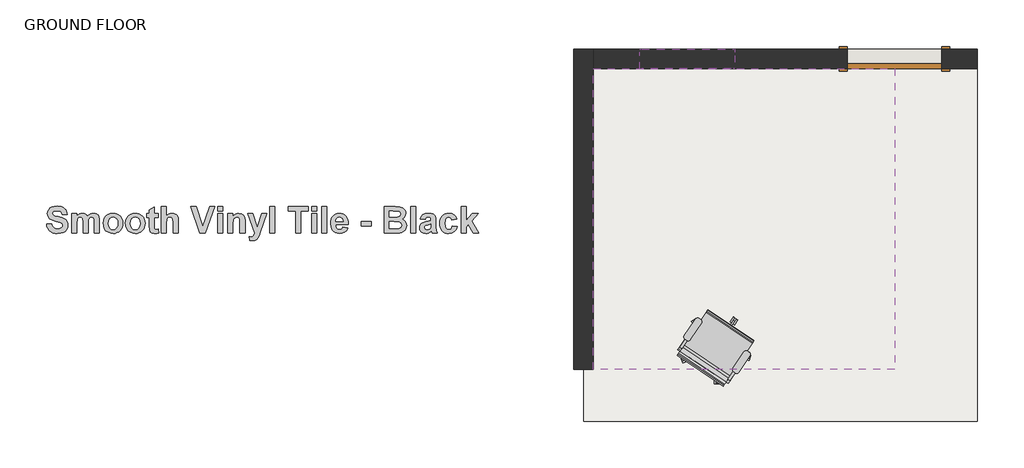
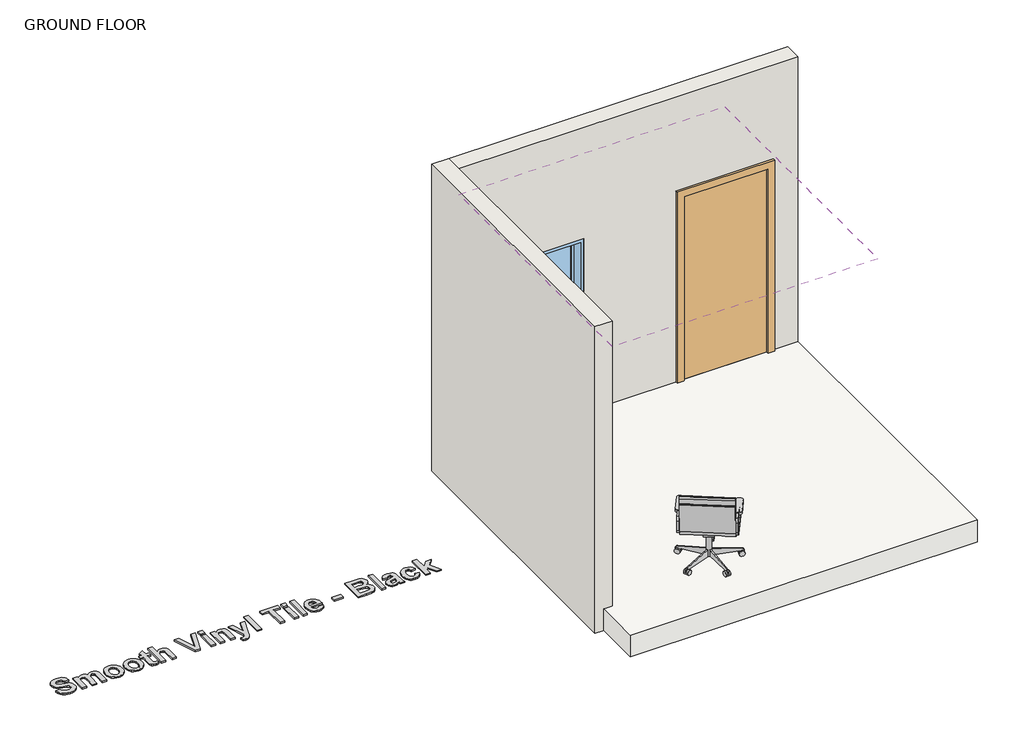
# One storey, incomplete: 2 walls, 1 covering, 1 door, 1 furniture element, 1 proxy, 1 slab, 1 window.
"""IFC4 building model written with IfcOpenShell, lengths in millimetres."""

from ifc_helpers import new_model, si_unit, frame, origin, origin_with_axes, place, context, project, spatial, polyline, outline, extrude, faceted_brep, transform, mapped, element, save
from components import m_single_flush_0915_x_2134mm_f5238887, chair_task_arms_chair_task_arms_8395c10b, m_fixed_0915_x_0610mm_e83bb20a

model = new_model("IFC4")

# Units and contexts
model_context = context("Model", 3, world=origin())
ifc_project = project(units=[si_unit("LENGTHUNIT", "METRE", prefix="MILLI")], contexts=[model_context])

# Site, building, storey
site = spatial("IfcSite", under=ifc_project)
building = spatial("IfcBuilding", under=site)
storey = spatial("IfcBuildingStorey", under=building, Name="GROUND FLOOR", Elevation=0.0)

# Proxy
placement = place(None, origin())
element("IfcBuildingElementProxy", 1, Name="600mm Arial", ObjectType="600mm Arial", at=placement, inside=storey, context=model_context, shape_type="SweptSolid", body=[
    extrude(outline(polyline([(3280.9097687, -20252.2153974), (3329.4935496, -20248.166749), (3336.5786843, -20269.8966042), (3348.4715891, -20284.9841455), (3365.2513389, -20293.8089338), (3386.9970091, -20296.7505299), (3409.565061, -20294.148957), (3425.7754697, -20286.3442383), (3435.54916, -20275.0602124), (3438.8070568, -20262.0207178), (3433.3983155, -20246.8066562), (3414.4519061, -20235.8942835), (3372.3206586, -20225.076801), (3336.3572739, -20213.8955728), (3312.9826553, -20200.2155694), (3295.0009629, -20176.920026), (3289.0070655, -20149.038123), (3291.7588812, -20130.249864), (3300.0143284, -20112.7268076), (3313.4571063, -20097.8448617), (3331.7709143, -20086.9799341), (3354.6552669, -20080.3376203), (3381.8096783, -20078.1235157), (3423.774868, -20083.6429621), (3440.3154155, -20090.5422702), (3453.8945981, -20100.2013015), (3464.5559071, -20112.1614201), (3472.3428339, -20125.9639901), (3477.2553785, -20141.6090113), (3479.2935409, -20159.0964839), (3430.7097599, -20159.0964839), (3425.3405563, -20142.4037167), (3416.0650395, -20131.1671359), (3402.0291978, -20124.7857701), (3382.3790195, -20122.6586482), (3361.6929565, -20124.9201979), (3346.0677041, -20131.704847), (3339.7100608, -20138.5053111), (3337.5908464, -20147.2668393), (3339.5202805, -20155.5381015), (3345.3085825, -20162.512531), (3362.1120549, -20170.6809955), (3392.9118314, -20179.1183155), (3425.7833772, -20187.8956588), (3448.8021575, -20197.0841929), (3464.933491, -20208.2100685), (3477.1426964, -20222.7994363), (3484.8288024, -20241.0341692), (3487.3908377, -20263.09614), (3484.3622589, -20284.1617638), (3475.2765225, -20303.8356647), (3460.6476171, -20320.378189), (3440.9895313, -20332.0496833), (3416.088762, -20338.9766677), (3385.7318065, -20341.2856625), (3363.0293268, -20339.8642864), (3343.1261079, -20335.6001582), (3326.0221499, -20328.4932778), (3311.7174527, -20318.5436452), (3300.1131723, -20305.8698733), (3291.1104649, -20290.5905746), (3284.7093303, -20272.7057494), (3280.9097687, -20252.2153974)])), origin_with_axes(), (0.0, 0.0, 1.0), 15.0),
    extrude(outline(polyline([(3523.8286734, -20150.9991871), (3572.4124544, -20150.9991871), (3572.4124544, -20175.9236789), (3584.372573, -20163.24793), (3597.4160213, -20154.1938237), (3611.5427994, -20148.7613599), (3626.7529073, -20146.9505387), (3642.4018823, -20148.7297299), (3655.8209377, -20154.0673035), (3667.0258885, -20163.0107046), (3676.0325497, -20175.6073782), (3688.471073, -20163.0107046), (3701.8743134, -20154.0673035), (3716.2264557, -20148.7297299), (3731.511685, -20146.9505387), (3749.9678283, -20149.0302155), (3765.3558553, -20155.269246), (3777.4701705, -20165.5411098), (3786.1051784, -20179.7192868), (3789.8058961, -20195.2970941), (3791.0394686, -20218.2447068), (3791.0394686, -20337.2370141), (3742.4556877, -20337.2370141), (3742.4556877, -20230.0110913), (3741.2221151, -20207.0634786), (3737.5213974, -20194.0160765), (3729.13943, -20186.0452999), (3717.1516351, -20183.3883744), (3707.4491125, -20184.9777852), (3698.331746, -20189.7460176), (3690.7405302, -20197.5823664), (3685.6164596, -20208.3761263), (3681.7259615, -20247.1545869), (3681.7259615, -20337.2370141), (3633.1421806, -20337.2370141), (3633.1421806, -20234.4393005), (3630.6117753, -20199.1085171), (3622.7991491, -20187.2788725), (3608.4074692, -20183.3883744), (3598.0169926, -20184.9303401), (3588.7335683, -20189.5562372), (3581.2372427, -20197.1000079), (3576.2080623, -20207.3955943), (3572.4124544, -20246.0791647), (3572.4124544, -20337.2370141), (3523.8286734, -20337.2370141), (3523.8286734, -20150.9991871)])), origin_with_axes(), (0.0, 0.0, 1.0), 15.0),
    extrude(outline(polyline([(3827.4773044, -20241.4611751), (3830.4742531, -20217.3669725), (3839.4650993, -20194.0477065), (3853.9437619, -20173.828187), (3873.4041598, -20159.0332238), (3896.6364431, -20149.97121), (3922.4307617, -20146.9505387), (3942.4229401, -20148.662516), (3960.5212683, -20153.7984479), (3976.7257464, -20162.3583345), (3991.0363742, -20174.3421756), (4002.7296141, -20188.9434047), (4011.0819284, -20205.355455), (4016.0933169, -20223.5783267), (4017.7637797, -20243.6120195), (4016.075525, -20263.8058396), (4011.0107607, -20282.1927922), (4002.5694869, -20298.7728773), (3990.7517036, -20313.5460948), (3976.3758387, -20325.6821557), (3960.2603203, -20334.3507706), (3942.4051482, -20339.5519395), (3922.8103224, -20341.2856625), (3898.0360735, -20338.399419), (3874.447952, -20329.7406885), (3854.2047099, -20315.4992514), (3839.4650993, -20295.8648881), (3830.4742531, -20271.0985466), (3827.4773044, -20241.4611751)]), holes=[polyline([(3876.0610853, -20244.1181006), (3879.4217798, -20270.0942921), (3889.5038632, -20289.1909442), (3904.5202369, -20300.9336061), (3922.6838022, -20304.8478268), (3940.8315524, -20300.9336061), (3955.800481, -20289.1909442), (3965.8351193, -20269.9994019), (3969.1799988, -20243.7385398), (3965.8351193, -20218.0470189), (3955.800481, -20199.0452569), (3940.8315524, -20187.302595), (3922.6838022, -20183.3883744), (3904.5202369, -20187.302595), (3889.5038632, -20199.0452569), (3879.4217798, -20218.1419091), (3876.0610853, -20244.1181006)])]), origin_with_axes(), (0.0, 0.0, 1.0), 15.0),
    extrude(outline(polyline([(4042.0556702, -20241.4611751), (4045.0526189, -20217.3669725), (4054.0434651, -20194.0477065), (4068.5221277, -20173.828187), (4087.9825257, -20159.0332238), (4111.2148089, -20149.97121), (4137.0091275, -20146.9505387), (4157.0013059, -20148.662516), (4175.0996342, -20153.7984479), (4191.3041122, -20162.3583345), (4205.6147401, -20174.3421756), (4217.30798, -20188.9434047), (4225.6602942, -20205.355455), (4230.6716828, -20223.5783267), (4232.3421456, -20243.6120195), (4230.6538909, -20263.8058396), (4225.5891266, -20282.1927922), (4217.1478528, -20298.7728773), (4205.3300695, -20313.5460948), (4190.9542046, -20325.6821557), (4174.8386861, -20334.3507706), (4156.983514, -20339.5519395), (4137.3886883, -20341.2856625), (4112.6144393, -20338.399419), (4089.0263178, -20329.7406885), (4068.7830758, -20315.4992514), (4054.0434651, -20295.8648881), (4045.0526189, -20271.0985466), (4042.0556702, -20241.4611751)]), holes=[polyline([(4090.6394512, -20244.1181006), (4094.0001457, -20270.0942921), (4104.0822291, -20289.1909442), (4119.0986028, -20300.9336061), (4137.262168, -20304.8478268), (4155.4099183, -20300.9336061), (4170.3788469, -20289.1909442), (4180.4134852, -20269.9994019), (4183.7583647, -20243.7385398), (4180.4134852, -20218.0470189), (4170.3788469, -20199.0452569), (4155.4099183, -20187.302595), (4137.262168, -20183.3883744), (4119.0986028, -20187.302595), (4104.0822291, -20199.0452569), (4094.0001457, -20218.1419091), (4090.6394512, -20244.1181006)])]), origin_with_axes(), (0.0, 0.0, 1.0), 15.0),
    extrude(outline(polyline([(4357.8502464, -20150.9991871), (4357.8502464, -20187.4370228), (4321.4124107, -20187.4370228), (4321.4124107, -20267.3345688), (4322.519463, -20295.5802175), (4327.5486434, -20302.2225313), (4337.1009233, -20304.8478268), (4359.8745706, -20300.166577), (4361.8988948, -20334.7066088), (4343.1580809, -20339.6408991), (4322.1082721, -20341.2856625), (4297.5633411, -20336.730933), (4281.5268978, -20324.9645486), (4274.410133, -20305.417168), (4272.8286297, -20270.0547545), (4272.8286297, -20187.4370228), (4248.5367393, -20187.4370228), (4248.5367393, -20150.9991871), (4272.8286297, -20150.9991871), (4272.8286297, -20114.5613514), (4321.4124107, -20086.2208125), (4321.4124107, -20150.9991871), (4357.8502464, -20150.9991871)])), origin_with_axes(), (0.0, 0.0, 1.0), 15.0),
    extrude(outline(polyline([(4434.7745662, -20082.1721641), (4434.7745662, -20174.531956), (4446.9798178, -20162.4650859), (4460.3158443, -20153.845893), (4474.7826456, -20148.6743773), (4490.3802218, -20146.9505387), (4506.1952546, -20148.5241345), (4520.3655241, -20153.2449218), (4532.0686484, -20160.4249467), (4540.4822459, -20169.3762553), (4549.7182251, -20191.1061104), (4552.1853702, -20228.0500272), (4552.1853702, -20337.2370141), (4503.6015893, -20337.2370141), (4503.6015893, -20238.1716482), (4500.8814036, -20200.6900203), (4491.2658636, -20188.0696241), (4474.0591079, -20183.3883744), (4462.7988045, -20184.8908025), (4452.8037037, -20189.3980869), (4444.6984994, -20196.9260425), (4439.1078852, -20207.4904845), (4434.7745662, -20243.2957189), (4434.7745662, -20337.2370141), (4386.1907853, -20337.2370141), (4386.1907853, -20082.1721641), (4434.7745662, -20082.1721641)])), origin_with_axes(), (0.0, 0.0, 1.0), 15.0),
    extrude(outline(polyline([(4759.6153412, -20337.2370141), (4673.6448226, -20082.1721641), (4724.885529, -20082.1721641), (4789.0313023, -20272.4586395), (4853.366856, -20082.1721641), (4904.4177821, -20082.1721641), (4813.892534, -20337.2370141), (4759.6153412, -20337.2370141)])), origin_with_axes(), (0.0, 0.0, 1.0), 15.0),
    extrude(outline(polyline([(4932.758321, -20126.7072966), (4932.758321, -20082.1721641), (4981.3421019, -20082.1721641), (4981.3421019, -20126.7072966), (4932.758321, -20126.7072966)])), origin_with_axes(), (0.0, 0.0, 1.0), 15.0),
    extrude(outline(polyline([(4932.758321, -20337.2370141), (4932.758321, -20150.9991871), (4981.3421019, -20150.9991871), (4981.3421019, -20337.2370141), (4932.758321, -20337.2370141)])), origin_with_axes(), (0.0, 0.0, 1.0), 15.0),
    extrude(outline(polyline([(5195.9204678, -20337.2370141), (5147.3366868, -20337.2370141), (5147.3366868, -20241.5244352), (5144.3002005, -20202.1766334), (5134.3683599, -20188.3226647), (5117.8574656, -20183.3883744), (5106.0989887, -20185.1517506), (5095.6215294, -20190.4418791), (5087.3344522, -20198.6498811), (5082.1471214, -20209.166878), (5078.5096638, -20252.2786575), (5078.5096638, -20337.2370141), (5029.9258829, -20337.2370141), (5029.9258829, -20150.9991871), (5078.5096638, -20150.9991871), (5078.5096638, -20177.8214828), (5090.8018981, -20164.3154448), (5104.588653, -20154.6682747), (5119.8699285, -20148.8799727), (5136.6457246, -20146.9505387), (5164.8597433, -20152.8337309), (5184.2173435, -20167.8263821), (5193.3584325, -20188.480815), (5195.9204678, -20221.5974938), (5195.9204678, -20337.2370141)])), origin_with_axes(), (0.0, 0.0, 1.0), 15.0),
    extrude(outline(polyline([(5224.2610067, -20150.9991871), (5272.8447876, -20150.9991871), (5315.355596, -20282.833301), (5357.8664043, -20150.9991871), (5406.4501852, -20150.9991871), (5343.4430943, -20329.4560179), (5331.73997, -20362.6043268), (5320.194996, -20386.2003558), (5307.5745998, -20399.4217233), (5290.0199133, -20407.2976097), (5266.5187745, -20410.1126855), (5240.4556003, -20407.3292397), (5236.4069519, -20371.3342249), (5255.701292, -20373.6748498), (5269.4682781, -20371.1049069), (5279.1391707, -20363.3950784), (5290.810665, -20337.2370141), (5224.2610067, -20150.9991871)])), origin_with_axes(), (0.0, 0.0, 1.0), 15.0),
    extrude(outline(polyline([(5434.7907241, -20337.2370141), (5434.7907241, -20082.1721641), (5483.3745051, -20082.1721641), (5483.3745051, -20337.2370141), (5434.7907241, -20337.2370141)])), origin_with_axes(), (0.0, 0.0, 1.0), 15.0),
    extrude(outline(polyline([(5685.8069257, -20337.2370141), (5685.8069257, -20126.7072966), (5612.9312543, -20126.7072966), (5612.9312543, -20082.1721641), (5807.2663781, -20082.1721641), (5807.2663781, -20126.7072966), (5734.3907067, -20126.7072966), (5734.3907067, -20337.2370141), (5685.8069257, -20337.2370141)])), origin_with_axes(), (0.0, 0.0, 1.0), 15.0),
    extrude(outline(polyline([(5839.6555654, -20126.7072966), (5839.6555654, -20082.1721641), (5888.2393463, -20082.1721641), (5888.2393463, -20126.7072966), (5839.6555654, -20126.7072966)])), origin_with_axes(), (0.0, 0.0, 1.0), 15.0),
    extrude(outline(polyline([(5839.6555654, -20337.2370141), (5839.6555654, -20150.9991871), (5888.2393463, -20150.9991871), (5888.2393463, -20337.2370141), (5839.6555654, -20337.2370141)])), origin_with_axes(), (0.0, 0.0, 1.0), 15.0),
    extrude(outline(polyline([(5936.8231273, -20337.2370141), (5936.8231273, -20082.1721641), (5985.4069082, -20082.1721641), (5985.4069082, -20337.2370141), (5936.8231273, -20337.2370141)])), origin_with_axes(), (0.0, 0.0, 1.0), 15.0),
    extrude(outline(polyline([(6139.2555479, -20280.5559363), (6187.8393289, -20288.6532331), (6176.0096843, -20311.3240827), (6158.8661887, -20327.8428846), (6136.5828074, -20337.924968), (6109.3335057, -20341.2856625), (6087.3308413, -20339.3048296), (6068.3883857, -20333.362331), (6052.5061389, -20323.4581667), (6039.684101, -20309.5923366), (6026.3045832, -20280.888052), (6021.8447439, -20245.5098235), (6023.3234495, -20223.6692631), (6027.7595662, -20204.3274779), (6035.1530941, -20187.4844679), (6045.5040331, -20173.1402331), (6058.1165218, -20161.6822418), (6072.2946988, -20153.4979623), (6088.038564, -20148.5873946), (6105.3481175, -20146.9505387), (6124.5831512, -20148.6308859), (6141.6752479, -20153.6719277), (6156.6244078, -20162.0736639), (6169.4306306, -20173.8360945), (6179.6352806, -20189.069925), (6186.7797217, -20207.8858603), (6190.8639539, -20230.2839006), (6191.8879773, -20256.2640458), (6070.4285249, -20256.2640458), (6073.5440864, -20276.7286983), (6081.8786087, -20292.0692802), (6094.1668892, -20301.6531901), (6109.1437253, -20304.8478268), (6119.3444215, -20303.4086588), (6127.8054641, -20299.0911548), (6134.463593, -20291.5790142), (6139.2555479, -20280.5559363)]), holes=[polyline([(6143.3041963, -20227.9235069), (6140.3467852, -20208.7161495), (6132.4867138, -20194.743568), (6121.0682601, -20186.2271728), (6107.4357018, -20183.3883744), (6093.0440219, -20186.3774156), (6081.3725276, -20195.3445392), (6073.7180517, -20209.4989937), (6071.2509066, -20227.9235069), (6143.3041963, -20227.9235069)])]), origin_with_axes(), (0.0, 0.0, 1.0), 15.0),
    extrude(outline(polyline([(6317.3960781, -20268.4099911), (6317.3960781, -20223.8748585), (6414.56364, -20223.8748585), (6414.56364, -20268.4099911), (6317.3960781, -20268.4099911)])), origin_with_axes(), (0.0, 0.0, 1.0), 15.0),
    extrude(outline(polyline([(6540.0717408, -20082.1721641), (6644.7672583, -20082.1721641), (6691.1053046, -20084.7025693), (6718.4336814, -20095.2986414), (6729.4804818, -20104.6927709), (6738.5187731, -20116.7438259), (6744.5443006, -20130.9378179), (6746.5528098, -20146.7607583), (6744.1568323, -20163.9991441), (6736.9688999, -20179.7825469), (6725.6690589, -20192.9564693), (6710.9373558, -20202.3664138), (6729.5674645, -20211.5075028), (6743.3265431, -20225.3931017), (6751.8192157, -20243.0901235), (6754.6501066, -20263.6654812), (6752.6178749, -20280.7536242), (6746.5211797, -20297.3515012), (6736.9056397, -20312.0594818), (6724.3168736, -20323.4779355), (6708.6046384, -20331.3775444), (6689.6186915, -20335.5289905), (6627.2442019, -20337.2370141), (6540.0717408, -20337.2370141), (6540.0717408, -20082.1721641)]), holes=[polyline([(6588.6555217, -20126.7072966), (6588.6555217, -20183.3883744), (6625.7259587, -20183.3883744), (6666.8450442, -20182.5659927), (6679.7896486, -20179.6085815), (6689.6503216, -20173.7728344), (6695.889352, -20165.3434219), (6697.9690288, -20154.6050146), (6696.1740226, -20144.3331507), (6690.7890039, -20136.1646863), (6681.8772329, -20130.4475519), (6669.5019697, -20127.5296783), (6621.1712293, -20126.7072966), (6588.6555217, -20126.7072966)]), polyline([(6588.6555217, -20227.9235069), (6588.6555217, -20292.7018815), (6640.0227484, -20292.7018815), (6678.1053476, -20291.1836384), (6689.3498359, -20287.7913138), (6698.2853295, -20281.5364683), (6704.1210766, -20272.5456222), (6706.0663257, -20260.9452956), (6704.5638975, -20250.8869347), (6700.0566132, -20242.4733372), (6682.7233372, -20231.4028142), (6633.5069549, -20227.9235069), (6588.6555217, -20227.9235069)])]), origin_with_axes(), (0.0, 0.0, 1.0), 15.0),
    extrude(outline(polyline([(6795.1365907, -20337.2370141), (6795.1365907, -20082.1721641), (6843.7203717, -20082.1721641), (6843.7203717, -20337.2370141), (6795.1365907, -20337.2370141)])), origin_with_axes(), (0.0, 0.0, 1.0), 15.0),
    extrude(outline(polyline([(6932.7906368, -20207.6802649), (6888.2555042, -20199.582968), (6897.9105818, -20176.2399795), (6912.705545, -20159.8556055), (6934.2693423, -20150.1768054), (6964.2309221, -20146.9505387), (6991.3220734, -20148.9036952), (7010.4740782, -20154.7631649), (7023.4107751, -20163.6195833), (7031.8560026, -20174.5635861), (7036.5056223, -20191.5726539), (7038.0554955, -20218.6242676), (7038.0554955, -20276.064467), (7040.6175308, -20312.2492622), (7050.2014407, -20337.2370141), (7001.6176598, -20337.2370141), (6997.0629303, -20321.801542), (6995.3549068, -20315.6653093), (6969.3549927, -20334.8647591), (6955.042388, -20339.6804367), (6939.8125114, -20341.2856625), (6915.0382624, -20337.3872569), (6896.1313906, -20325.6920401), (6884.1515032, -20308.0503709), (6880.1582074, -20286.3126083), (6881.9373986, -20271.4148473), (6887.2749722, -20258.2251099), (6895.8229975, -20247.3285523), (6907.2335437, -20239.3103306), (6944.2407206, -20227.8602468), (6989.4717145, -20215.7775617), (6989.4717145, -20210.6534911), (6987.9613789, -20198.0330948), (6983.430372, -20189.6511274), (6974.7241964, -20184.9540627), (6960.6883547, -20183.3883744), (6950.6141788, -20184.7326522), (6943.0387781, -20188.7654856), (6932.7906368, -20207.6802649)]), holes=[polyline([(6989.4717145, -20252.2153974), (6962.0800776, -20258.9526014), (6937.5351466, -20266.6387074), (6930.9402779, -20273.5498767), (6928.7419884, -20282.1374396), (6930.5053645, -20290.748725), (6935.795493, -20298.1106228), (6943.8058072, -20303.1635258), (6953.7297403, -20304.8478268), (6965.63846, -20302.8867627), (6976.9462085, -20297.0035705), (6987.7004309, -20282.4537402), (6989.4717145, -20261.0085557), (6989.4717145, -20252.2153974)])]), origin_with_axes(), (0.0, 0.0, 1.0), 15.0),
    extrude(outline(polyline([(7240.4879161, -20203.6316165), (7191.9041352, -20211.7289133), (7188.1796949, -20199.3694651), (7181.5611037, -20190.5051392), (7172.2855869, -20185.1675656), (7160.5903701, -20183.3883744), (7145.1865281, -20186.7253463), (7133.2619933, -20196.7362621), (7125.6233324, -20214.5598042), (7123.0771122, -20241.3346548), (7125.7261302, -20271.0194715), (7133.6731842, -20290.4877769), (7146.0800775, -20301.2578143), (7162.1086133, -20304.8478268), (7174.246651, -20302.79978), (7183.9649887, -20296.6556398), (7191.2161812, -20285.4981341), (7195.9527836, -20268.4099911), (7244.5365645, -20276.5072879), (7233.9009549, -20304.6501389), (7216.5439564, -20324.9329185), (7192.3074185, -20337.1974765), (7161.033191, -20341.2856625), (7142.2666777, -20339.6764829), (7125.5047197, -20334.8489441), (7110.7473172, -20326.8030461), (7097.99447, -20315.538789), (7087.7127218, -20301.4317797), (7080.3686159, -20284.8576252), (7075.9621524, -20265.8163257), (7074.4933312, -20244.307881), (7075.952268, -20222.5562802), (7080.3290783, -20203.3548534), (7087.6237622, -20186.7036007), (7097.8363197, -20172.602522), (7110.5397449, -20161.3797793), (7125.3070318, -20153.3635345), (7142.1381805, -20148.5537876), (7161.033191, -20146.9505387), (7190.2751868, -20150.4535685), (7212.8432387, -20160.9626578), (7229.369948, -20178.635957), (7240.4879161, -20203.6316165)])), origin_with_axes(), (0.0, 0.0, 1.0), 15.0),
    extrude(outline(polyline([(7280.9744002, -20337.2370141), (7280.9744002, -20082.1721641), (7329.5581812, -20082.1721641), (7329.5581812, -20216.5999434), (7388.2635832, -20150.9991871), (7444.944661, -20150.9991871), (7382.5069112, -20219.4466493), (7448.9933094, -20337.2370141), (7400.4095284, -20337.2370141), (7351.2564063, -20253.7969007), (7329.5581812, -20277.5827101), (7329.5581812, -20337.2370141), (7280.9744002, -20337.2370141)])), origin_with_axes(), (0.0, 0.0, 1.0), 15.0),
])

# Covering
element("IfcCovering", 2, ObjectType="Vinyl Suspended Ceiling - Smooth Vinyl Tile - Black", at=placement, inside=storey, context=model_context, shape_type="SweptSolid", body=[
    extrude(outline(polyline([(8558.2778372, -18750.6917524), (11463.2778372, -18750.6917524), (11463.2778372, -21655.6917524), (8558.2778372, -21655.6917524), (8558.2778372, -18750.6917524)])), frame((0.0, 0.0, 3000.0), z_axis=(0.0, 0.0, 1.0), x_axis=(1.0, 0.0, 0.0)), (0.0, 0.0, 1.0), 51.0),
])

# Door
m_single_flush_0915_x_2134mm_shape = m_single_flush_0915_x_2134mm_f5238887(model_context)
element("IfcDoor", 3, ObjectType="M_Single-Flush : 0915 x 2134mm", at=placement, inside=storey, context=model_context, shape_type="MappedRepresentation", body=[
    mapped(m_single_flush_0915_x_2134mm_shape, transform((11463.2778372, -18655.6917524, 0.0), x_axis=(-1.0, 0.0, 0.0), y_axis=(0.0, -1.0, 0.0), z_axis=(0.0, 0.0, 1.0))),
])

# Furniture
chair_task_arms_chair_task_arms_shape = chair_task_arms_chair_task_arms_8395c10b(model_context)
element("IfcFurniture", 4, ObjectType="Chair-Task Arms : Chair-Task Arms", at=placement, inside=storey, context=model_context, shape_type="MappedRepresentation", body=[
    mapped(chair_task_arms_chair_task_arms_shape, transform((9842.4585015, -21543.2695122, 0.0), x_axis=(-0.8290375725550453, 0.5591929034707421, 0.0), y_axis=(-0.5591929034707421, -0.8290375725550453, 0.0), z_axis=(0.0, 0.0, 1.0))),
])

# Slab
element("IfcSlab", 5, ObjectType="Generic Floor - 250mm", at=placement, inside=storey, context=model_context, shape_type="SweptSolid", body=[
    extrude(outline(polyline([(8463.2778372, -18655.6917524), (12263.2778372, -18655.6917524), (12263.2778372, -22155.6917524), (8463.2778372, -22155.6917524), (8463.2778372, -18655.6917524)])), frame((0.0, 0.0, -250.0), z_axis=(0.0, 0.0, 1.0), x_axis=(1.0, 0.0, 0.0)), (0.0, 0.0, 1.0), 250.0),
])

# Walls
element("IfcWall", 6, ObjectType="190mm MAXI BLOCK- plastered", at=placement, inside=storey, context=model_context, shape_type="Brep", body=[
    faceted_brep([(8558.2778372, -21655.6917524, -250.0), (8558.2778372, -18750.6917524, -250.0), (8558.2778372, -18560.6917524, -250.0), (8558.2778372, -18560.6917524, 3300.0), (8558.2778372, -18750.6917524, 3300.0), (8558.2778372, -21655.6917524, 3300.0), (8368.2778372, -21655.6917524, -250.0), (8368.2778372, -21655.6917524, 3300.0), (8368.2778372, -18560.6917524, 3300.0), (8368.2778372, -18560.6917524, -250.0)], [[[0, 1, 2, 3, 4, 5]], [[6, 7, 8, 9]], [[2, 1, 0, 6, 9]], [[5, 4, 3, 8, 7]], [[0, 5, 7, 6]], [[3, 2, 9, 8]]]),
])
element("IfcWall", 7, ObjectType="190mm MAXI BLOCK- plastered", at=placement, inside=storey, context=model_context, shape_type="SweptSolid", body=[
    extrude(outline(polyline([(-250.0, 8558.2778372), (-250.0, 12263.2778372), (3300.0, 12263.2778372), (3300.0, 8558.2778372), (-250.0, 8558.2778372)]), holes=[polyline([(0.0, 11920.7778372), (0.0, 11005.7778372), (2134.0, 11005.7778372), (2134.0, 11920.7778372), (0.0, 11920.7778372)]), polyline([(1400.0, 9005.7778372), (2010.0, 9005.7778372), (2010.0, 9920.7778372), (1400.0, 9920.7778372), (1400.0, 9005.7778372)])]), frame((0.0, -18750.6917524, 0.0), z_axis=(0.0, 1.0, 0.0), x_axis=(0.0, 0.0, 1.0)), (0.0, 0.0, 1.0), 190.0),
])

# Window
m_fixed_0915_x_0610mm_shape = m_fixed_0915_x_0610mm_e83bb20a(model_context)
element("IfcWindow", 8, ObjectType="M_Fixed : 0915 x 0610mm", at=placement, inside=storey, context=model_context, shape_type="MappedRepresentation", body=[
    mapped(m_fixed_0915_x_0610mm_shape, transform((9463.2778372, -18668.6917524, 485.0), x_axis=(1.0, 0.0, 0.0), y_axis=(0.0, 1.0, 0.0), z_axis=(0.0, 0.0, 1.0))),
])

save(model, "model.ifc")
